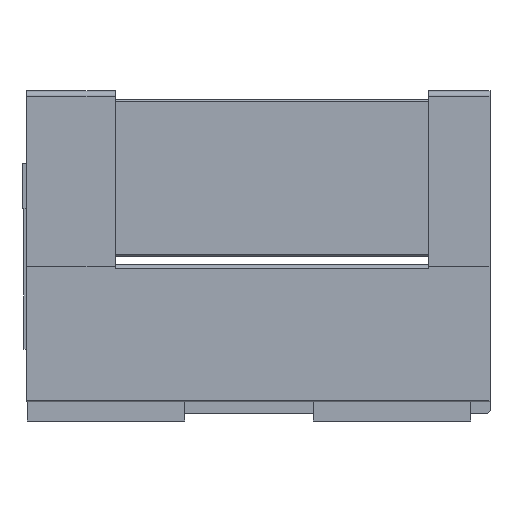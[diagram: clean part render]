
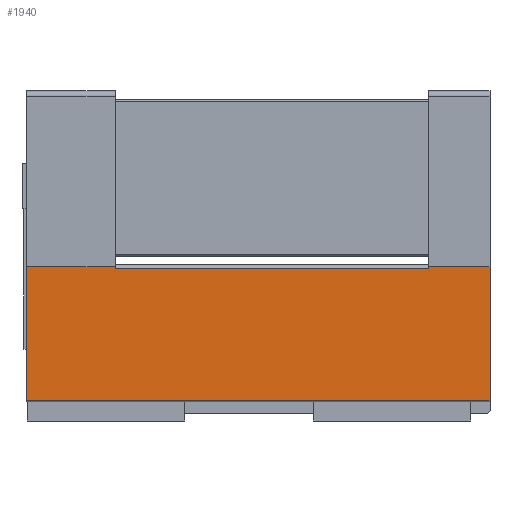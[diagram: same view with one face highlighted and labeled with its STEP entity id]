
A CAD part, left-side view. The second image highlights one B-rep face of the part: STEP entity #1940.
In plain terms, the highlighted planar face has unit normal (-1, 0, 0).
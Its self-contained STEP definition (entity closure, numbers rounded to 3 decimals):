
#90 = FACE_OUTER_BOUND ( 'NONE', #624, .T. ) ;
#469 = ORIENTED_EDGE ( 'NONE', *, *, #2773, .F. ) ;
#474 = ORIENTED_EDGE ( 'NONE', *, *, #2728, .F. ) ;
#477 = ORIENTED_EDGE ( 'NONE', *, *, #2642, .F. ) ;
#478 = ORIENTED_EDGE ( 'NONE', *, *, #3055, .F. ) ;
#479 = ORIENTED_EDGE ( 'NONE', *, *, #2957, .T. ) ;
#483 = ORIENTED_EDGE ( 'NONE', *, *, #2971, .T. ) ;
#484 = ORIENTED_EDGE ( 'NONE', *, *, #2959, .F. ) ;
#485 = ORIENTED_EDGE ( 'NONE', *, *, #2763, .F. ) ;
#624 = EDGE_LOOP ( 'NONE', ( #474, #485, #484, #483, #479, #477, #469, #478 ) ) ;
#1267 = LINE ( 'NONE', #3280, #1273 ) ;
#1273 = VECTOR ( 'NONE', #3210, 1000. ) ;
#1280 = VECTOR ( 'NONE', #3174, 1000. ) ;
#1284 = LINE ( 'NONE', #4457, #1280 ) ;
#1338 = VECTOR ( 'NONE', #4410, 1000. ) ;
#1353 = LINE ( 'NONE', #4403, #1338 ) ;
#1459 = VECTOR ( 'NONE', #4280, 1000. ) ;
#1466 = LINE ( 'NONE', #4276, #1459 ) ;
#1645 = VECTOR ( 'NONE', #2128, 1000. ) ;
#1674 = LINE ( 'NONE', #2118, #1645 ) ;
#1743 = VECTOR ( 'NONE', #2023, 1000. ) ;
#1745 = LINE ( 'NONE', #2022, #1743 ) ;
#1760 = LINE ( 'NONE', #2008, #1763 ) ;
#1762 = VECTOR ( 'NONE', #2004, 1000. ) ;
#1763 = VECTOR ( 'NONE', #2009, 1000. ) ;
#1770 = LINE ( 'NONE', #2003, #1762 ) ;
#1940 = ADVANCED_FACE ( 'NONE', ( #90 ), #4009, .F. ) ;
#2003 = CARTESIAN_POINT ( 'NONE',  ( -4.1, 265., -28.503 ) ) ;
#2004 = DIRECTION ( 'NONE',  ( 0., -1., 0. ) ) ;
#2008 = CARTESIAN_POINT ( 'NONE',  ( -4.1, 265., 48.248 ) ) ;
#2009 = DIRECTION ( 'NONE',  ( 0., -1., 0. ) ) ;
#2022 = CARTESIAN_POINT ( 'NONE',  ( -4.1, 265., 46.498 ) ) ;
#2023 = DIRECTION ( 'NONE',  ( 0., 0., -1. ) ) ;
#2118 = CARTESIAN_POINT ( 'NONE',  ( -4.1, 35.3, -28.503 ) ) ;
#2128 = DIRECTION ( 'NONE',  ( 0., 0., 1. ) ) ;
#2367 = CARTESIAN_POINT ( 'NONE',  ( -4.1, 265., -28.503 ) ) ;
#2379 = CARTESIAN_POINT ( 'NONE',  ( -4.1, 35.3, 48.248 ) ) ;
#2423 = CARTESIAN_POINT ( 'NONE',  ( -4.1, 0., -28.503 ) ) ;
#2426 = CARTESIAN_POINT ( 'NONE',  ( -4.1, 0., 48.248 ) ) ;
#2434 = CARTESIAN_POINT ( 'NONE',  ( -4.1, 214.3, 47.266 ) ) ;
#2438 = CARTESIAN_POINT ( 'NONE',  ( -4.1, 214.3, 48.248 ) ) ;
#2440 = CARTESIAN_POINT ( 'NONE',  ( -4.1, 265., 48.248 ) ) ;
#2497 = CARTESIAN_POINT ( 'NONE',  ( -4.1, 35.3, 47.266 ) ) ;
#2642 = EDGE_CURVE ( 'NONE', #3572, #3569, #1466, .T. ) ;
#2728 = EDGE_CURVE ( 'NONE', #3580, #3643, #1353, .T. ) ;
#2763 = EDGE_CURVE ( 'NONE', #3584, #3580, #1284, .T. ) ;
#2773 = EDGE_CURVE ( 'NONE', #3525, #3572, #1267, .T. ) ;
#2834 = AXIS2_PLACEMENT_3D ( 'NONE', #4012, #4018, #4019 ) ;
#2957 = EDGE_CURVE ( 'NONE', #3513, #3569, #1770, .T. ) ;
#2959 = EDGE_CURVE ( 'NONE', #3586, #3584, #1760, .T. ) ;
#2971 = EDGE_CURVE ( 'NONE', #3586, #3513, #1745, .T. ) ;
#3055 = EDGE_CURVE ( 'NONE', #3643, #3525, #1674, .T. ) ;
#3174 = DIRECTION ( 'NONE',  ( 0., 0., -1. ) ) ;
#3210 = DIRECTION ( 'NONE',  ( 0., -1., 0. ) ) ;
#3280 = CARTESIAN_POINT ( 'NONE',  ( -4.1, 265., 48.248 ) ) ;
#3513 = VERTEX_POINT ( 'NONE', #2367 ) ;
#3525 = VERTEX_POINT ( 'NONE', #2379 ) ;
#3569 = VERTEX_POINT ( 'NONE', #2423 ) ;
#3572 = VERTEX_POINT ( 'NONE', #2426 ) ;
#3580 = VERTEX_POINT ( 'NONE', #2434 ) ;
#3584 = VERTEX_POINT ( 'NONE', #2438 ) ;
#3586 = VERTEX_POINT ( 'NONE', #2440 ) ;
#3643 = VERTEX_POINT ( 'NONE', #2497 ) ;
#4009 = PLANE ( 'NONE',  #2834 ) ;
#4012 = CARTESIAN_POINT ( 'NONE',  ( -4.1, 265., -28.503 ) ) ;
#4018 = DIRECTION ( 'NONE',  ( 1., 0., 0. ) ) ;
#4019 = DIRECTION ( 'NONE',  ( 0., 0., -1. ) ) ;
#4276 = CARTESIAN_POINT ( 'NONE',  ( -4.1, 0., -28.503 ) ) ;
#4280 = DIRECTION ( 'NONE',  ( 0., 0., -1. ) ) ;
#4403 = CARTESIAN_POINT ( 'NONE',  ( -4.1, 370., 47.266 ) ) ;
#4410 = DIRECTION ( 'NONE',  ( 0., -1., 0. ) ) ;
#4457 = CARTESIAN_POINT ( 'NONE',  ( -4.1, 214.3, -28.503 ) ) ;
